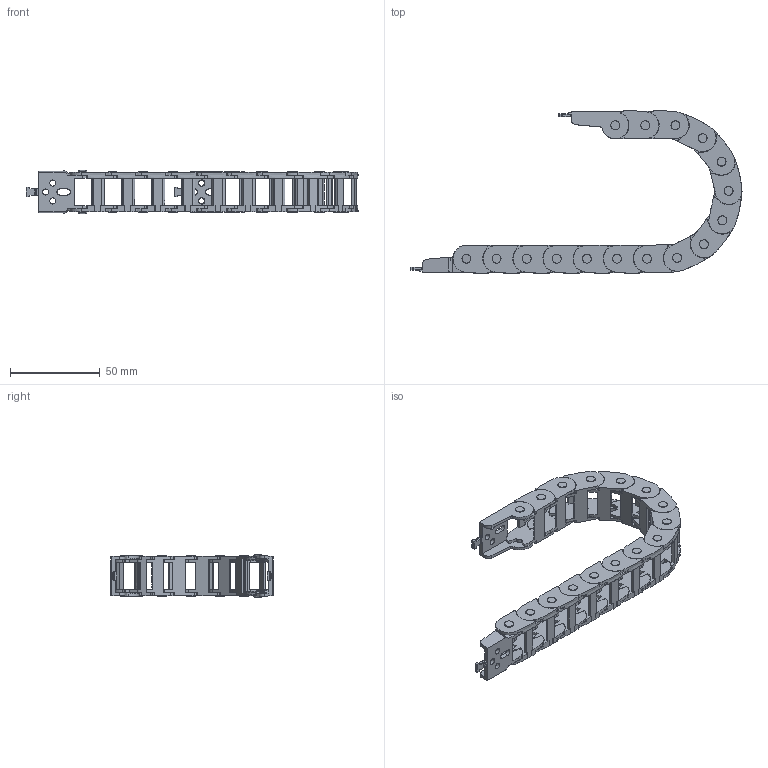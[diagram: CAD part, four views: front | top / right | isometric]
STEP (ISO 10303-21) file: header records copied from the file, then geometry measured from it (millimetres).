
FILE_DESCRIPTION((''),'2;1');
FILE_NAME('WK-10X15-R38_ASM','2022-05-04T11:29:10',('admin'),(''),'CREO PARAMETRIC BY PTC INC, 2021164','CREO PARAMETRIC BY PTC INC, 2021164','');
FILE_SCHEMA(('CONFIG_CONTROL_DESIGN','GEOMETRIC_VALIDATION_PROPERTIES_MIM'));
Length unit declared in the file: millimetre
Products named in the file (4): 10X15; 10-15-LTT-A; 10-15-LTT-B; WK-10X15-R38_ASM
Assembly tree (17 placements, depth 2):
  WK-10X15-R38_ASM
    10X15  x15
    10-15-LTT-A
    10-15-LTT-B
Bounding box: 185.28 x 90.65 x 24.14 mm (x, y, z)
Volume: 33994.5 mm3; surface area: 44375.1 mm2
Topology: 17 solids, 17 shells, 3110 faces, 8850 edges, 5881 vertices
Faces by surface type: plane 1522, extrusion 1065, cylinder 483, cone 40
Entity records: 19982 total; most frequent: CARTESIAN_POINT 4018, ORIENTED_EDGE 2104, DIRECTION 1657, PRESENTATION_STYLE_ASSIGNMENT 1492, STYLED_ITEM 1492, CURVE_STYLE 1123, EDGE_CURVE 1052, VECTOR 733
